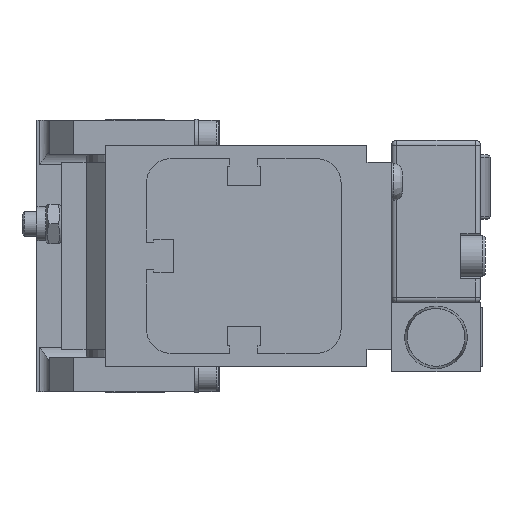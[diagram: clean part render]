
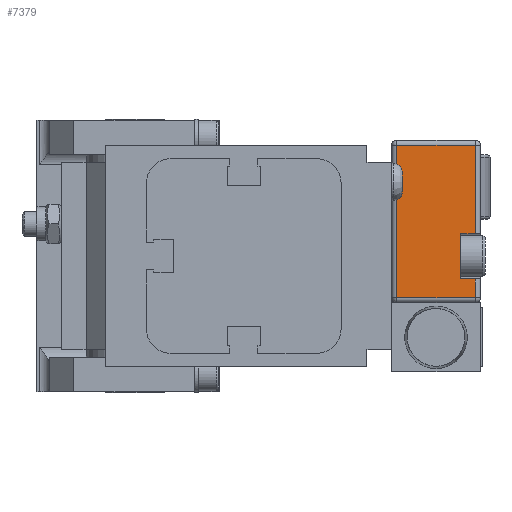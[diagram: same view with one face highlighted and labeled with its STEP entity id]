
A CAD part, front view. The second image highlights one B-rep face of the part: STEP entity #7379.
In plain terms, the highlighted planar face has unit normal (0, -1, 0).
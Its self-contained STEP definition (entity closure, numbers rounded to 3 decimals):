
#361=LINE('',#11179,#1056);
#363=LINE('',#11187,#1058);
#377=LINE('',#11236,#1072);
#381=LINE('',#11257,#1076);
#387=LINE('',#11272,#1082);
#483=LINE('',#11973,#1178);
#484=LINE('',#11975,#1179);
#485=LINE('',#11976,#1180);
#1056=VECTOR('',#8907,3.855);
#1058=VECTOR('',#8915,16.);
#1072=VECTOR('',#8965,16.);
#1076=VECTOR('',#8991,31.);
#1082=VECTOR('',#9009,17.952);
#1178=VECTOR('',#9395,3.);
#1179=VECTOR('',#9396,9.193);
#1180=VECTOR('',#9397,3.);
#1698=PLANE('',#7980);
#2222=FACE_OUTER_BOUND('',#2738,.T.);
#2738=EDGE_LOOP('',(#5889,#5890,#5891,#5892,#5893,#5894,#5895,#5896));
#3466=VERTEX_POINT('',#11175);
#3468=VERTEX_POINT('',#11178);
#3471=VERTEX_POINT('',#11186);
#3487=VERTEX_POINT('',#11233);
#3488=VERTEX_POINT('',#11235);
#3497=VERTEX_POINT('',#11271);
#3647=VERTEX_POINT('',#11972);
#3648=VERTEX_POINT('',#11974);
#4240=EDGE_CURVE('',#3466,#3468,#361,.T.);
#4244=EDGE_CURVE('',#3468,#3471,#363,.T.);
#4270=EDGE_CURVE('',#3487,#3488,#377,.T.);
#4281=EDGE_CURVE('',#3471,#3487,#381,.T.);
#4291=EDGE_CURVE('',#3488,#3497,#387,.T.);
#4484=EDGE_CURVE('',#3466,#3647,#483,.T.);
#4485=EDGE_CURVE('',#3647,#3648,#484,.T.);
#4486=EDGE_CURVE('',#3648,#3497,#485,.T.);
#5889=ORIENTED_EDGE('',*,*,#4281,.F.);
#5890=ORIENTED_EDGE('',*,*,#4244,.F.);
#5891=ORIENTED_EDGE('',*,*,#4240,.F.);
#5892=ORIENTED_EDGE('',*,*,#4484,.T.);
#5893=ORIENTED_EDGE('',*,*,#4485,.T.);
#5894=ORIENTED_EDGE('',*,*,#4486,.T.);
#5895=ORIENTED_EDGE('',*,*,#4291,.F.);
#5896=ORIENTED_EDGE('',*,*,#4270,.F.);
#7379=ADVANCED_FACE('',(#2222),#1698,.T.);
#7980=AXIS2_PLACEMENT_3D('',#11971,#9393,#9394);
#8907=DIRECTION('',(0.,0.,-1.));
#8915=DIRECTION('',(-1.,0.,0.));
#8965=DIRECTION('',(1.,0.,0.));
#8991=DIRECTION('',(0.,0.,1.));
#9009=DIRECTION('',(0.,0.,-1.));
#9393=DIRECTION('center_axis',(0.,-1.,0.));
#9394=DIRECTION('ref_axis',(0.,0.,-1.));
#9395=DIRECTION('',(-1.,0.,0.));
#9396=DIRECTION('',(0.,0.,1.));
#9397=DIRECTION('',(1.,0.,0.));
#11175=CARTESIAN_POINT('',(-12.096,47.138,-4.645));
#11178=CARTESIAN_POINT('',(-12.096,47.138,-8.5));
#11179=CARTESIAN_POINT('',(-12.096,47.138,-4.645));
#11186=CARTESIAN_POINT('',(-28.096,47.138,-8.5));
#11187=CARTESIAN_POINT('',(-12.096,47.138,-8.5));
#11233=CARTESIAN_POINT('',(-28.096,47.138,22.5));
#11235=CARTESIAN_POINT('',(-12.096,47.138,22.5));
#11236=CARTESIAN_POINT('',(-28.096,47.138,22.5));
#11257=CARTESIAN_POINT('',(-28.096,47.138,-8.5));
#11271=CARTESIAN_POINT('',(-12.096,47.138,4.548));
#11272=CARTESIAN_POINT('',(-12.096,47.138,22.5));
#11971=CARTESIAN_POINT('Origin',(-20.096,47.138,7.));
#11972=CARTESIAN_POINT('',(-15.096,47.138,-4.645));
#11973=CARTESIAN_POINT('',(-12.096,47.138,-4.645));
#11974=CARTESIAN_POINT('',(-15.096,47.138,4.548));
#11975=CARTESIAN_POINT('',(-15.096,47.138,-4.645));
#11976=CARTESIAN_POINT('',(-15.096,47.138,4.548));
